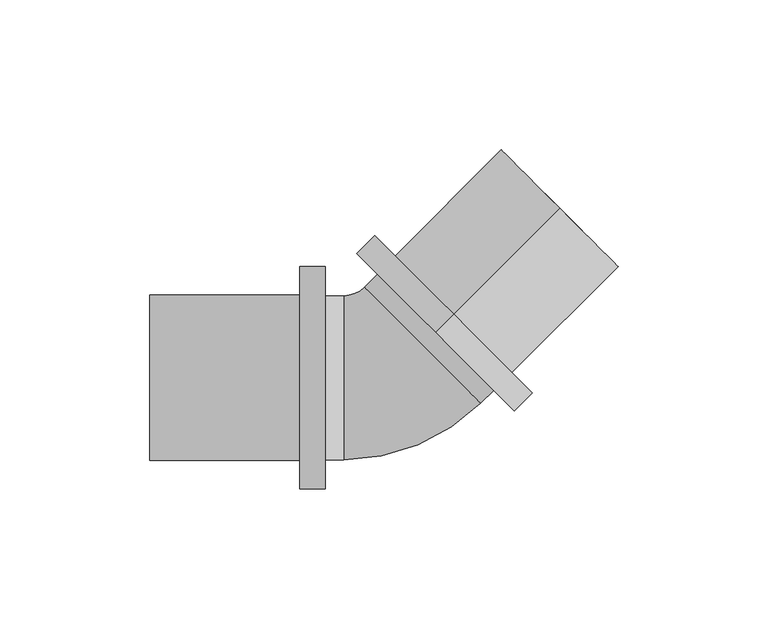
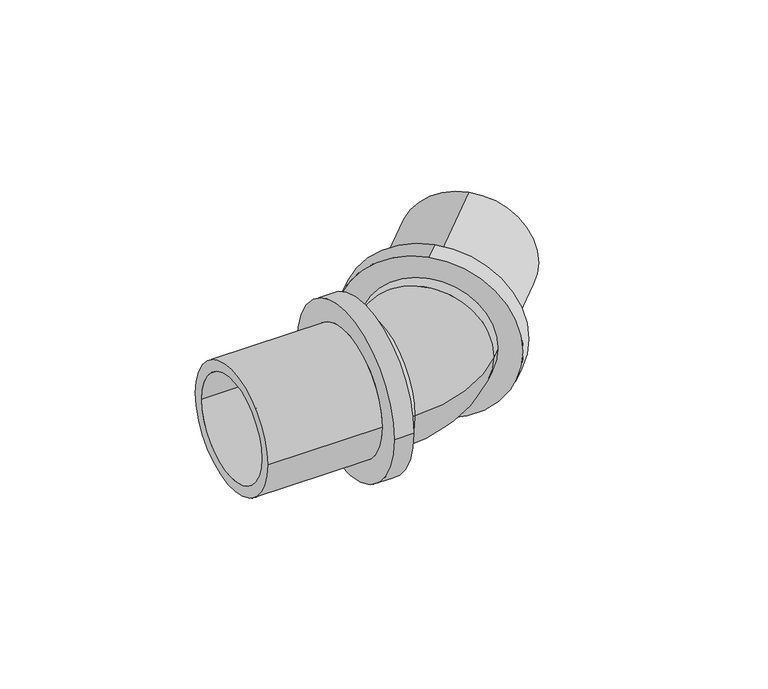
"""IFC4 building model written with IfcOpenShell, lengths in millimetres: pipe fitting geometry, RAUTITAN_Corner_RX+ stabil : RTI RX+ stabil C DN."""

import ifcopenshell
import ifcopenshell.guid

model = None  # the IFC model being written
_history = None  # IfcOwnerHistory: only IFC2X3 demands one
_inside = {}  # id of a spatial element -> (the spatial element, [elements in it])
_under = {}  # id of a project, library or spatial element -> (it, [spatial elements below it])
_declared = {}  # id of a project -> (the project, [libraries it declares])
_typed = {}  # id of a type object -> (the type object, [elements of that type])
_made_of = {}  # id of a material, layer set ... -> (it, [elements and type objects made of it])


def new_model(schema):
    """Start an empty IFC model of exactly this schema.

    Asked for "IFC4X3", IfcOpenShell would pick the latest addendum, in which some entities
    have other attributes; the version numbers below select the first issue.
    IFC2X3 requires an IfcOwnerHistory on every rooted entity: one is made here for all.
    """
    global model, _history
    if schema == "IFC4X3":
        model = ifcopenshell.file(schema_version=(4, 3, 0, 0))
    else:
        model = ifcopenshell.file(schema=schema)
    _inside.clear()
    _under.clear()
    _declared.clear()
    _typed.clear()
    _made_of.clear()
    _history = None
    if model.schema == "IFC2X3":
        org = make("IfcOrganization", Name="unknown")
        user = make(
            "IfcPersonAndOrganization",
            ThePerson=make("IfcPerson", FamilyName="unknown"),
            TheOrganization=org,
        )
        app = make(
            "IfcApplication",
            ApplicationDeveloper=org,
            Version="unknown",
            ApplicationFullName="unknown",
            ApplicationIdentifier="unknown",
        )
        _history = make(
            "IfcOwnerHistory",
            OwningUser=user,
            OwningApplication=app,
            ChangeAction="ADDED",
            CreationDate=0,
        )
    return model


def make(cls, **values):
    """One entity of the class cls with the attributes given. An attribute that is None is left unset."""
    return model.create_entity(
        cls, **{name: value for name, value in values.items() if value is not None}
    )


def rooted(cls, **values):
    """An entity with a GlobalId (a new one), such as an element, a storey or a relation."""
    return make(cls, GlobalId=ifcopenshell.guid.new(), OwnerHistory=_history, **values)


def si_unit(unit_type, name, prefix=None):
    """IfcSIUnit, for example si_unit("LENGTHUNIT", "METRE", prefix="MILLI")."""
    return make("IfcSIUnit", UnitType=unit_type, Prefix=prefix, Name=name)


def assignment(units):
    """IfcUnitAssignment: the units of a project."""
    return None if units is None else make("IfcUnitAssignment", Units=units)


def point(xyz):
    """IfcCartesianPoint."""
    return None if xyz is None else make("IfcCartesianPoint", Coordinates=xyz)


def direction(xyz):
    """IfcDirection."""
    return None if xyz is None else make("IfcDirection", DirectionRatios=xyz)


def frame(location, z_axis=None, x_axis=None):
    """IfcAxis2Placement3D, a coordinate frame: its origin and axes. An axis left out is left unset."""
    return make(
        "IfcAxis2Placement3D",
        Location=point(location),
        Axis=direction(z_axis),
        RefDirection=direction(x_axis),
    )


def origin():
    """The frame at (0, 0, 0) with its axes left unset."""
    return frame((0.0, 0.0, 0.0))


def place(relative_to, where):
    """IfcLocalPlacement: puts the frame where relative to a parent placement (None: the world)."""
    return make(
        "IfcLocalPlacement", PlacementRelTo=relative_to, RelativePlacement=where
    )


def context(
    kind, dimensions, precision=None, world=None, true_north=None, identifier=None
):
    """IfcGeometricRepresentationContext, for example the 3D "Model" context."""
    return make(
        "IfcGeometricRepresentationContext",
        ContextIdentifier=identifier,
        ContextType=kind,
        CoordinateSpaceDimension=dimensions,
        Precision=precision,
        WorldCoordinateSystem=world,
        TrueNorth=true_north,
    )


def project(units=None, contexts=None):
    """IfcProject with its units and contexts."""
    return rooted(
        "IfcProject",
        Name="project",
        RepresentationContexts=contexts,
        UnitsInContext=assignment(units),
    )


def spatial(cls, under=None, at=None, **own):
    """A site, building, storey or space (cls), placed at a placement, below another one or the project."""
    s = rooted(cls, ObjectPlacement=at, **own)
    if under is not None:
        _under.setdefault(under.id(), (under, []))[1].append(s)
    return s


def polyline(points):
    """IfcPolyline through the points."""
    return make("IfcPolyline", Points=[point(p) for p in points])


def circle_curve(where, radius):
    """IfcCircle in the frame where."""
    return make("IfcCircle", Position=where, Radius=radius)


def ellipse_curve(where, semi_axis1, semi_axis2):
    """IfcEllipse in the frame where."""
    return make(
        "IfcEllipse", Position=where, SemiAxis1=semi_axis1, SemiAxis2=semi_axis2
    )


def trimmed(basis, trim1, trim2, sense, master):
    """IfcTrimmedCurve: the piece of a basis curve between two trims."""
    return make(
        "IfcTrimmedCurve",
        BasisCurve=basis,
        Trim1=trim1,
        Trim2=trim2,
        SenseAgreement=sense,
        MasterRepresentation=master,
    )


def shape(context_of_items, identifier, shape_type, items):
    """IfcShapeRepresentation: the items that make up one representation, for example the "Body"."""
    return make(
        "IfcShapeRepresentation",
        ContextOfItems=context_of_items,
        RepresentationIdentifier=identifier,
        RepresentationType=shape_type,
        Items=items,
    )


def source(mapping_origin, context_of_items, identifier, shape_type, items):
    """IfcRepresentationMap: a shape defined once, which mapped items show again and again."""
    return make(
        "IfcRepresentationMap",
        MappingOrigin=mapping_origin,
        MappedRepresentation=shape(context_of_items, identifier, shape_type, items),
    )


def transform(
    local_origin,
    x_axis=None,
    y_axis=None,
    z_axis=None,
    scale=None,
    scale2=None,
    scale3=None,
    uniform=True,
):
    """IfcCartesianTransformationOperator3D, or its non-uniform kind. x_axis, y_axis, z_axis: its Axis1, 2, 3."""
    if uniform:
        return make(
            "IfcCartesianTransformationOperator3D",
            Axis1=direction(x_axis),
            Axis2=direction(y_axis),
            LocalOrigin=point(local_origin),
            Scale=scale,
            Axis3=direction(z_axis),
        )
    return make(
        "IfcCartesianTransformationOperator3DnonUniform",
        Axis1=direction(x_axis),
        Axis2=direction(y_axis),
        LocalOrigin=point(local_origin),
        Scale=scale,
        Axis3=direction(z_axis),
        Scale2=scale2,
        Scale3=scale3,
    )


def mapped(mapping_source, mapping_target):
    """IfcMappedItem: shows the shape of a source again, moved by a transform."""
    return make(
        "IfcMappedItem", MappingSource=mapping_source, MappingTarget=mapping_target
    )


def made_of(thing, what):
    """Note that an element or type object is made of a material, layer set ...; save() writes the relation."""
    if what is not None:
        _made_of.setdefault(what.id(), (what, []))[1].append(thing)
    return thing


def element(
    cls,
    number,
    at=None,
    inside=None,
    cuts=None,
    type_object=None,
    material=None,
    context=None,
    identifier="Body",
    shape_type=None,
    held_by="IfcProductDefinitionShape",
    body=None,
    shapes=None,
    **own,
):
    """One element of the class cls, such as IfcWall. Its Tag is "e" and its number.

    at: its placement. inside: the storey or other place that contains it. cuts: it is an
    opening in that element (IfcRelVoidsElement). A single representation is given by context,
    identifier, shape_type and body (its items); several are given by shapes. held_by: the class
    of the entity that holds the representations. save() writes the other relations.
    """
    e = rooted(cls, Tag="e%d" % number, ObjectPlacement=at, **own)
    if body is not None:
        shapes = [shape(context, identifier, shape_type, body)]
    if shapes is not None:
        e.Representation = make(held_by, Representations=shapes)
    if inside is not None:
        _inside.setdefault(inside.id(), (inside, []))[1].append(e)
    if cuts is not None:
        rooted(
            "IfcRelVoidsElement", RelatingBuildingElement=cuts, RelatedOpeningElement=e
        )
    if type_object is not None:
        _typed.setdefault(type_object.id(), (type_object, []))[1].append(e)
    return made_of(e, material)


def aggregate(whole, parts):
    """IfcRelAggregates: a whole, such as a stair, and the parts it consists of."""
    return rooted("IfcRelAggregates", RelatingObject=whole, RelatedObjects=parts)


def save(model, path):
    """Write the relations noted so far, then the file.

    IfcRelAggregates (storeys below a building ...), IfcRelContainedInSpatialStructure (elements
    in a storey), IfcRelDefinesByType, IfcRelAssociatesMaterial and IfcRelDeclares: one each for
    every whole, place, type object, material and project.
    """
    for whole, parts in _under.values():
        aggregate(whole, parts)
    for where, things in _inside.values():
        rooted(
            "IfcRelContainedInSpatialStructure",
            RelatedElements=things,
            RelatingStructure=where,
        )
    for kind, things in _typed.values():
        rooted("IfcRelDefinesByType", RelatedObjects=things, RelatingType=kind)
    for what, things in _made_of.values():
        rooted("IfcRelAssociatesMaterial", RelatedObjects=things, RelatingMaterial=what)
    for by, libraries in _declared.values():
        rooted("IfcRelDeclares", RelatingContext=by, RelatedDefinitions=libraries)
    model.write(path)


def plane_surface(at):
    """IfcPlane: the flat surface through the origin of the frame at, square to its z axis."""
    return make("IfcPlane", Position=at)


def cylinder_surface(at, radius):
    """IfcCylindricalSurface: all points at the distance radius from the z axis of the frame at."""
    return make("IfcCylindricalSurface", Position=at, Radius=radius)


def revolved_surface(curve, axis_point, axis_direction):
    """IfcSurfaceOfRevolution: the curve turned about the line through axis_point along axis_direction."""
    return make(
        "IfcSurfaceOfRevolution",
        SweptCurve=make("IfcArbitraryOpenProfileDef", ProfileType="CURVE", Curve=curve),
        AxisPosition=make("IfcAxis1Placement", Location=point(axis_point), Axis=direction(axis_direction)),
    )


def advanced_brep(points, edges, surfaces, faces):
    """IfcAdvancedBrep: a solid bounded by faces that lie on surfaces and meet in shared edges.

    An edge is (start, end): straight between two places in points (the first is 0);
    or (start, end, curve); or (start, end, curve, False) where it runs against its curve.
    A face is (place in surfaces, loops), or (place, loops, False) where it looks against
    its surface's normal. A loop lists edges by number (the first is 1), with a minus sign
    where the edge is run from its end to its start. The first loop is the outer one.
    """
    corners = [point(p) for p in points]
    vertices = [make("IfcVertexPoint", VertexGeometry=c) for c in corners]
    made = []
    for start, end, *more in edges:
        made.append(
            make(
                "IfcEdgeCurve",
                EdgeStart=vertices[start],
                EdgeEnd=vertices[end],
                EdgeGeometry=more[0] if more else make("IfcPolyline", Points=[corners[start], corners[end]]),
                SameSense=more[1] if len(more) > 1 else True,
            )
        )
    hull = []
    for where, loops, *sense in faces:
        bounds = []
        for j, loop in enumerate(loops):
            ring = [make("IfcOrientedEdge", EdgeElement=made[abs(k) - 1], Orientation=k > 0) for k in loop]
            bounds.append(
                make(
                    "IfcFaceOuterBound" if j == 0 else "IfcFaceBound",
                    Bound=make("IfcEdgeLoop", EdgeList=ring),
                    Orientation=True,
                )
            )
        hull.append(make("IfcAdvancedFace", Bounds=bounds, FaceSurface=surfaces[where], SameSense=sense[0] if sense else True))
    return make("IfcAdvancedBrep", Outer=make("IfcClosedShell", CfsFaces=hull))


def pipe_fitting_447afcbf(model_context):
    return source(origin(), model_context, "Body", "AdvancedBrep", [
        advanced_brep(
        [(21.2132034, 21.2132034, 37.05), (21.2132034, 21.2132034, -37.05), (15.2027958, 15.2027958, -37.05), (15.2027958, 15.2027958, 37.05), (56.5685425, 56.5685425, 27.55), (56.5685425, 56.5685425, -27.55), (21.2132034, 21.2132034, -27.55), (21.2132034, 21.2132034, 27.55), (15.2027958, 15.2027958, 22.75), (15.2027958, 15.2027958, -22.75), (56.5685425, 56.5685425, -22.75), (56.5685425, 56.5685425, 22.75)],
        [
            (0, 1, circle_curve(frame((21.2132034, 21.2132034, 0.0), z_axis=(-0.7071067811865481, -0.707106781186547, 0.0), x_axis=(0.0, 0.0, -1.0)), 37.05)),
            (1, 2),
            (2, 3, circle_curve(frame((15.2027958, 15.2027958, 0.0), z_axis=(0.7071067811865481, 0.707106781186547, 0.0), x_axis=(0.0, 0.0, -1.0)), 37.05)),
            (3, 0),
            (4, 5, circle_curve(frame((56.5685425, 56.5685425, 0.0), z_axis=(-0.7071067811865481, -0.707106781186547, 0.0), x_axis=(0.0, 0.0, -1.0)), 27.55)),
            (5, 6),
            (6, 7, circle_curve(frame((21.2132034, 21.2132034, 0.0), z_axis=(0.7071067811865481, 0.707106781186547, 0.0), x_axis=(0.0, 0.0, -1.0)), 27.55)),
            (7, 4),
            (8, 9, circle_curve(frame((15.2027958, 15.2027958, 0.0), z_axis=(-0.7071067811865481, -0.707106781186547, 0.0), x_axis=(0.0, 0.0, -1.0)), 22.75)),
            (9, 10),
            (10, 11, circle_curve(frame((56.5685425, 56.5685425, 0.0), z_axis=(0.7071067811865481, 0.707106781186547, 0.0), x_axis=(0.0, 0.0, -1.0)), 22.75)),
            (11, 8),
            (1, 0, circle_curve(frame((21.2132034, 21.2132034, 0.0), z_axis=(-0.7071067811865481, -0.707106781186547, 0.0), x_axis=(0.0, 0.0, 1.0)), 37.05)),
            (3, 2, circle_curve(frame((15.2027958, 15.2027958, 0.0), z_axis=(0.7071067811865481, 0.707106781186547, 0.0), x_axis=(0.0, 0.0, 1.0)), 37.05)),
            (6, 7, circle_curve(frame((21.2132034, 21.2132034, 0.0), z_axis=(-0.7071067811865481, -0.707106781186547, 0.0), x_axis=(0.0, 0.0, 1.0)), 27.55)),
            (5, 4, circle_curve(frame((56.5685425, 56.5685425, 0.0), z_axis=(-0.7071067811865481, -0.707106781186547, 0.0), x_axis=(0.0, 0.0, 1.0)), 27.55)),
            (10, 11, circle_curve(frame((56.5685425, 56.5685425, 0.0), z_axis=(-0.7071067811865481, -0.707106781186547, 0.0), x_axis=(0.0, 0.0, 1.0)), 22.75)),
            (9, 8, circle_curve(frame((15.2027958, 15.2027958, 0.0), z_axis=(-0.7071067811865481, -0.707106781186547, 0.0), x_axis=(0.0, 0.0, 1.0)), 22.75)),
        ],
        [
            cylinder_surface(frame((15.2027958, 15.2027958, 0.0), z_axis=(0.7071067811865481, 0.707106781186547, 0.0), x_axis=(0.0, 0.0, -1.0)), 37.05),
            cylinder_surface(frame((15.2027958, 15.2027958, 0.0), z_axis=(0.7071067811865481, 0.707106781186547, 0.0), x_axis=(0.0, 0.0, -1.0)), 27.55),
            revolved_surface(polyline([(56.56854250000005, 56.56854249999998, -22.75), (15.2027958, 15.2027958, -22.75)]), (15.2027958, 15.2027958, 0.0), (0.7071067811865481, 0.707106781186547, 0.0)),
            cylinder_surface(frame((15.2027958, 15.2027958, 0.0), z_axis=(0.7071067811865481, 0.707106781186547, 0.0), x_axis=(0.0, 0.0, 1.0)), 37.05),
            plane_surface(frame((21.2132034, 21.2132034, 0.0), z_axis=(0.7071067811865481, 0.707106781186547, 0.0), x_axis=(0.0, 0.0, 1.0))),
            cylinder_surface(frame((15.2027958, 15.2027958, 0.0), z_axis=(0.7071067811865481, 0.707106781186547, 0.0), x_axis=(0.0, 0.0, 1.0)), 27.55),
            plane_surface(frame((56.5685425, 56.5685425, 0.0), z_axis=(0.7071067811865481, 0.707106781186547, 0.0), x_axis=(0.0, 0.0, 1.0))),
            revolved_surface(polyline([(56.56854250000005, 56.56854249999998, 22.75), (15.2027958, 15.2027958, 22.75)]), (15.2027958, 15.2027958, 0.0), (0.7071067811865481, 0.707106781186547, 0.0)),
            plane_surface(frame((15.2027958, 15.2027958, 0.0), z_axis=(-0.7071067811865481, -0.707106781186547, 0.0), x_axis=(0.0, 0.0, 1.0))),
        ],
        [
            (0, [[1, 2, 3, 4]]),
            (1, [[5, 6, 7, 8]]),
            (2, [[9, 10, 11, 12]]),
            (3, [[13, -4, 14, -2]]),
            (4, [[-13, -1], [15, -7]]),
            (5, [[16, -8, -15, -6]]),
            (6, [[-16, -5], [17, -11]]),
            (7, [[18, -12, -17, -10]]),
            (8, [[-14, -3], [-18, -9]]),
        ],
    ),
        advanced_brep(
        [(-30.0, -37.05, 0.0), (-30.0, 37.05, 0.0), (-21.5, 37.05, 0.0), (-21.5, -37.05, 0.0), (-80.0, -27.55, 0.0), (-80.0, 27.55, 0.0), (-30.0, 27.55, 0.0), (-30.0, -27.55, 0.0), (-21.5, -22.75, 0.0), (-21.5, 22.75, 0.0), (-80.0, 22.75, 0.0), (-80.0, -22.75, 0.0)],
        [
            (0, 1, circle_curve(frame((-30.0, 0.0, 0.0), z_axis=(1.0, 0.0, 0.0), x_axis=(0.0, 1.0, 0.0)), 37.05)),
            (1, 2),
            (2, 3, circle_curve(frame((-21.5, 0.0, 0.0), z_axis=(-1.0, 0.0, 0.0), x_axis=(0.0, 1.0, 0.0)), 37.05)),
            (3, 0),
            (4, 5, circle_curve(frame((-80.0, 0.0, 0.0), z_axis=(1.0, 0.0, 0.0), x_axis=(0.0, 1.0, 0.0)), 27.55)),
            (5, 6),
            (6, 7, circle_curve(frame((-30.0, 0.0, 0.0), z_axis=(-1.0, 0.0, 0.0), x_axis=(0.0, 1.0, 0.0)), 27.55)),
            (7, 4),
            (8, 9, circle_curve(frame((-21.5, 0.0, 0.0), z_axis=(1.0, 0.0, 0.0), x_axis=(0.0, 1.0, 0.0)), 22.75)),
            (9, 10),
            (10, 11, circle_curve(frame((-80.0, 0.0, 0.0), z_axis=(-1.0, 0.0, 0.0), x_axis=(0.0, 1.0, 0.0)), 22.75)),
            (11, 8),
            (1, 0, circle_curve(frame((-30.0, 0.0, 0.0), z_axis=(1.0, 0.0, 0.0), x_axis=(0.0, -1.0, 0.0)), 37.05)),
            (3, 2, circle_curve(frame((-21.5, 0.0, 0.0), z_axis=(-1.0, 0.0, 0.0), x_axis=(0.0, -1.0, 0.0)), 37.05)),
            (6, 7, circle_curve(frame((-30.0, 0.0, 0.0), z_axis=(1.0, 0.0, 0.0), x_axis=(0.0, -1.0, 0.0)), 27.55)),
            (5, 4, circle_curve(frame((-80.0, 0.0, 0.0), z_axis=(1.0, 0.0, 0.0), x_axis=(0.0, -1.0, 0.0)), 27.55)),
            (10, 11, circle_curve(frame((-80.0, 0.0, 0.0), z_axis=(1.0, 0.0, 0.0), x_axis=(0.0, -1.0, 0.0)), 22.75)),
            (9, 8, circle_curve(frame((-21.5, 0.0, 0.0), z_axis=(1.0, 0.0, 0.0), x_axis=(0.0, -1.0, 0.0)), 22.75)),
        ],
        [
            cylinder_surface(frame((-21.5, 0.0, 0.0), z_axis=(-1.0, 0.0, 0.0), x_axis=(0.0, 1.0, 0.0)), 37.05),
            cylinder_surface(frame((-21.5, 0.0, 0.0), z_axis=(-1.0, 0.0, 0.0), x_axis=(0.0, 1.0, 0.0)), 27.55),
            revolved_surface(polyline([(-80.0, 22.75, 0.0), (-21.5, 22.75, 0.0)]), (-21.5, 0.0, 0.0), (-1.0, 0.0, 0.0)),
            cylinder_surface(frame((-21.5, 0.0, 0.0), z_axis=(-1.0, 0.0, 0.0), x_axis=(0.0, -1.0, 0.0)), 37.05),
            plane_surface(frame((-30.0, 0.0, 0.0), z_axis=(-1.0, 0.0, 0.0), x_axis=(0.0, -1.0, 0.0))),
            cylinder_surface(frame((-21.5, 0.0, 0.0), z_axis=(-1.0, 0.0, 0.0), x_axis=(0.0, -1.0, 0.0)), 27.55),
            plane_surface(frame((-80.0, 0.0, 0.0), z_axis=(-1.0, 0.0, 0.0), x_axis=(0.0, -1.0, 0.0))),
            revolved_surface(polyline([(-80.0, -22.75, 0.0), (-21.5, -22.75, 0.0)]), (-21.5, 0.0, 0.0), (-1.0, 0.0, 0.0)),
            plane_surface(frame((-21.5, 0.0, 0.0), z_axis=(1.0, 0.0, 0.0), x_axis=(0.0, -1.0, 0.0))),
        ],
        [
            (0, [[1, 2, 3, 4]]),
            (1, [[5, 6, 7, 8]]),
            (2, [[9, 10, 11, 12]]),
            (3, [[13, -4, 14, -2]]),
            (4, [[-13, -1], [15, -7]]),
            (5, [[16, -8, -15, -6]]),
            (6, [[-16, -5], [17, -11]]),
            (7, [[18, -12, -17, -10]]),
            (8, [[-14, -3], [-18, -9]]),
        ],
    ),
        advanced_brep(
        [(-21.5, 27.35, 0.0), (-21.5, -27.35, 0.0), (-21.5, 22.75, 0.0), (-21.5, -22.75, 0.0), (-15.4708766, -22.75, 0.0), (-15.4708766, 0.0, -22.75), (-15.4708766, 22.75, 0.0), (-15.4708766, 0.0, 22.75), (-15.4708766, -27.35, 0.0), (-15.4708766, 27.35, 0.0), (34.5421663, -4.1365747, 0.0), (-4.1365747, 34.5421663, 0.0), (31.2894751, -0.8838835, 0.0), (-0.8838835, 31.2894751, 0.0), (-5.1471175, 27.026241, 0.0), (10.9395617, 10.9395617, -22.75), (27.026241, -5.1471175, 0.0), (10.9395617, 10.9395617, 22.75), (-8.3998087, 30.2789322, 0.0), (30.2789322, -8.3998087, 0.0)],
        [
            (0, 1, circle_curve(frame((-21.5, 0.0, 0.0), z_axis=(-1.0, 0.0, 0.0), x_axis=(0.0, -1.0, 0.0)), 27.35)),
            (1, 0, circle_curve(frame((-21.5, 0.0, 0.0), z_axis=(-1.0, 0.0, 0.0), x_axis=(0.0, -1.0, 0.0)), 27.35)),
            (2, 3, circle_curve(frame((-21.5, 0.0, 0.0), z_axis=(1.0, 0.0, 0.0), x_axis=(0.0, -1.0, 0.0)), 22.75)),
            (3, 2, circle_curve(frame((-21.5, 0.0, 0.0), z_axis=(1.0, 0.0, 0.0), x_axis=(0.0, -1.0, 0.0)), 22.75)),
            (3, 4),
            (4, 5, circle_curve(frame((-15.4708766, 0.0, 0.0), z_axis=(1.0, 0.0, 0.0), x_axis=(0.0, -1.0, 0.0)), 22.75)),
            (5, 6, circle_curve(frame((-15.4708766, 0.0, 0.0), z_axis=(1.0, 0.0, 0.0), x_axis=(0.0, -1.0, 0.0)), 22.75)),
            (6, 2),
            (6, 7, circle_curve(frame((-15.4708766, 0.0, 0.0), z_axis=(1.0, 0.0, 0.0), x_axis=(0.0, -1.0, 0.0)), 22.75)),
            (7, 4, circle_curve(frame((-15.4708766, 0.0, 0.0), z_axis=(1.0, 0.0, 0.0), x_axis=(0.0, -1.0, 0.0)), 22.75)),
            (1, 8),
            (8, 9, circle_curve(frame((-15.4708766, 0.0, 0.0), z_axis=(-1.0, 0.0, 0.0), x_axis=(0.0, -1.0, 0.0)), 27.35)),
            (9, 0),
            (9, 8, circle_curve(frame((-15.4708766, 0.0, 0.0), z_axis=(-1.0, 0.0, 0.0), x_axis=(0.0, -1.0, 0.0)), 27.35)),
            (10, 11, circle_curve(frame((15.2027958, 15.2027958, 0.0), z_axis=(0.7071067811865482, 0.7071067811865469, 0.0), x_axis=(-0.7071067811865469, 0.7071067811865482, 0.0)), 27.35)),
            (11, 10, circle_curve(frame((15.2027958, 15.2027958, 0.0), z_axis=(0.7071067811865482, 0.7071067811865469, 0.0), x_axis=(-0.7071067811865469, 0.7071067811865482, 0.0)), 27.35)),
            (12, 13, circle_curve(frame((15.2027958, 15.2027958, 0.0), z_axis=(-0.7071067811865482, -0.7071067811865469, 0.0), x_axis=(-0.7071067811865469, 0.7071067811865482, 0.0)), 22.75)),
            (13, 12, circle_curve(frame((15.2027958, 15.2027958, 0.0), z_axis=(-0.7071067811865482, -0.7071067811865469, 0.0), x_axis=(-0.7071067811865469, 0.7071067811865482, 0.0)), 22.75)),
            (13, 14),
            (14, 15, circle_curve(frame((10.9395617, 10.9395617, 0.0), z_axis=(-0.7071067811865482, -0.7071067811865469, 0.0), x_axis=(-0.7071067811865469, 0.7071067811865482, 0.0)), 22.75)),
            (15, 16, circle_curve(frame((10.9395617, 10.9395617, 0.0), z_axis=(-0.7071067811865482, -0.7071067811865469, 0.0), x_axis=(-0.7071067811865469, 0.7071067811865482, 0.0)), 22.75)),
            (16, 12),
            (16, 17, circle_curve(frame((10.9395617, 10.9395617, 0.0), z_axis=(-0.7071067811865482, -0.7071067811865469, 0.0), x_axis=(-0.7071067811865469, 0.7071067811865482, 0.0)), 22.75)),
            (17, 14, circle_curve(frame((10.9395617, 10.9395617, 0.0), z_axis=(-0.7071067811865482, -0.7071067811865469, 0.0), x_axis=(-0.7071067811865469, 0.7071067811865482, 0.0)), 22.75)),
            (11, 18),
            (18, 19, circle_curve(frame((10.9395617, 10.9395617, 0.0), z_axis=(0.7071067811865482, 0.7071067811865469, 0.0), x_axis=(-0.7071067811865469, 0.7071067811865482, 0.0)), 27.35)),
            (19, 10),
            (19, 18, circle_curve(frame((10.9395617, 10.9395617, 0.0), z_axis=(0.7071067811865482, 0.7071067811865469, 0.0), x_axis=(-0.7071067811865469, 0.7071067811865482, 0.0)), 27.35)),
            (14, 6, circle_curve(frame((-15.4708766, 37.35, 0.0), z_axis=(0.0, 0.0, -1.0), x_axis=(0.0, -1.0, 0.0)), 14.6)),
            (4, 16, circle_curve(frame((-15.4708766, 37.35, 0.0), z_axis=(0.0, 0.0, 1.0), x_axis=(0.0, -1.0, 0.0)), 60.1)),
            (18, 9, circle_curve(frame((-15.4708766, 37.35, 0.0), z_axis=(0.0, 0.0, -1.0), x_axis=(0.0, -1.0, 0.0)), 10.0)),
            (8, 19, circle_curve(frame((-15.4708766, 37.35, 0.0), z_axis=(0.0, 0.0, 1.0), x_axis=(0.0, -1.0, 0.0)), 64.7)),
        ],
        [
            plane_surface(frame((-21.5, 0.0, 0.0), z_axis=(-1.0, 0.0, 0.0), x_axis=(0.0, 0.0, 1.0))),
            revolved_surface(polyline([(-21.5, -22.75, 0.0), (-15.4708766, -22.75, 0.0)]), (-15.4708766, 0.0, 0.0), (-1.0, 0.0, 0.0)),
            cylinder_surface(frame((-15.4708766, 0.0, 0.0), z_axis=(1.0, 0.0, 0.0), x_axis=(0.0, -1.0, 0.0)), 27.35),
            plane_surface(frame((15.2027958, 15.2027958, 0.0), z_axis=(0.7071067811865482, 0.7071067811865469, 0.0), x_axis=(0.0, 0.0, 1.0))),
            revolved_surface(polyline([(-0.8838834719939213, 31.289475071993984, 0.0), (-5.14711757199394, 27.02624097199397, 0.0)]), (10.9395617, 10.9395617, 0.0), (0.7071067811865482, 0.7071067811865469, 0.0)),
            cylinder_surface(frame((10.9395617, 10.9395617, 0.0), z_axis=(-0.7071067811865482, -0.7071067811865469, 0.0), x_axis=(-0.7071067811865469, 0.7071067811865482, 0.0)), 27.35),
            revolved_surface(trimmed(ellipse_curve(frame((-15.4708766, 0.0, 0.0), z_axis=(1.0, 0.0, 0.0), x_axis=(0.0, 1.0, 0.0)), 22.75, 22.75), [point((-15.4708766, -22.75, 0.0))], [point((-15.4708766, 22.75, 0.0))], True, "CARTESIAN"), (-15.4708766, 37.35, 0.0), (0.0, 0.0, 1.0)),
            revolved_surface(trimmed(ellipse_curve(frame((-15.4708766, 0.0, 0.0), z_axis=(1.0, 0.0, 0.0), x_axis=(0.0, 1.0, 0.0)), 22.75, 22.75), [point((-15.4708766, 22.75, 0.0))], [point((-15.4708766, -22.75, 0.0))], True, "CARTESIAN"), (-15.4708766, 37.35, 0.0), (0.0, 0.0, 1.0)),
            revolved_surface(trimmed(ellipse_curve(frame((-15.4708766, 0.0, 0.0), z_axis=(-1.0, 0.0, 0.0), x_axis=(0.0, 1.0, 0.0)), 27.35, 27.35), [point((-15.4708766, -27.35, 0.0))], [point((-15.4708766, 27.35, 0.0))], True, "CARTESIAN"), (-15.4708766, 37.35, 0.0), (0.0, 0.0, 1.0)),
            revolved_surface(trimmed(ellipse_curve(frame((-15.4708766, 0.0, 0.0), z_axis=(-1.0, 0.0, 0.0), x_axis=(0.0, 1.0, 0.0)), 27.35, 27.35), [point((-15.4708766, 27.35, 0.0))], [point((-15.4708766, -27.35, 0.0))], True, "CARTESIAN"), (-15.4708766, 37.35, 0.0), (0.0, 0.0, 1.0)),
        ],
        [
            (0, [[1, 2], [3, 4]]),
            (1, [[-4, 5, 6, 7, 8]]),
            (1, [[-3, -8, 9, 10, -5]]),
            (2, [[-2, 11, 12, 13]]),
            (2, [[-1, -13, 14, -11]]),
            (3, [[15, 16], [17, 18]]),
            (4, [[-18, 19, 20, 21, 22]]),
            (4, [[-17, -22, 23, 24, -19]]),
            (5, [[-16, 25, 26, 27]]),
            (5, [[-15, -27, 28, -25]]),
            (6, [[29, -7, -6, 30, -21, -20]]),
            (7, [[-29, -24, -23, -30, -10, -9]]),
            (8, [[31, -12, 32, -26]]),
            (9, [[-31, -28, -32, -14]]),
        ],
    ),
    ])


if __name__ == "__main__":
    model = new_model("IFC4")
    model_context = context("Model", 3, world=origin())
    ifc_project = project(units=[si_unit("LENGTHUNIT", "METRE", prefix="MILLI")], contexts=[model_context])
    site = spatial("IfcSite", under=ifc_project)
    building = spatial("IfcBuilding", under=site)
    placement = place(None, origin())
    pipe_fitting_shape = pipe_fitting_447afcbf(model_context)
    element("IfcPipeFitting", 1, ObjectType="RAUTITAN_Corner_RX+ stabil : RTI RX+ stabil C DN", at=placement, inside=building, context=model_context, shape_type="MappedRepresentation", body=[
        mapped(pipe_fitting_shape, transform((0.0, 0.0, 0.0), x_axis=(1.0, 0.0, 0.0), y_axis=(0.0, 1.0, 0.0), z_axis=(0.0, 0.0, 1.0))),
    ])
    save(model, "model.ifc")
